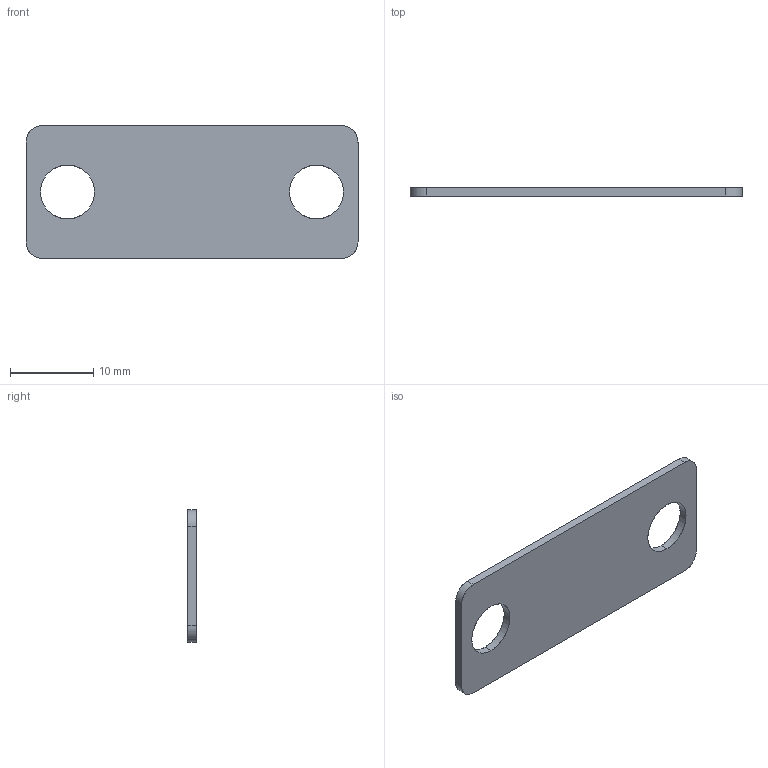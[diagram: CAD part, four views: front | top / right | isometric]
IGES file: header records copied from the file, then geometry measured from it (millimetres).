
Start section: SolidWorks IGES file using analytic representation for surfaces
Global section: file name: C:\Documents and Settings\CAD53\デスクトップ\IGES\N01863-112-1.IGS; native system: SolidWorks 2005 by SolidWorks Corporation; preprocessor: SolidWorks 2005 by SolidWorks Corporation; author: CAD53; date: 070530.105634; units: millimetre
Bounding box: 40 x 1 x 16 mm (x, y, z)
Surface area: 1289.8 mm2 (no closed solid volume)
Topology: 0 solids, 0 shells, 14 faces, 248 edges, 248 vertices
Faces by surface type: revolution 8, bspline 6
